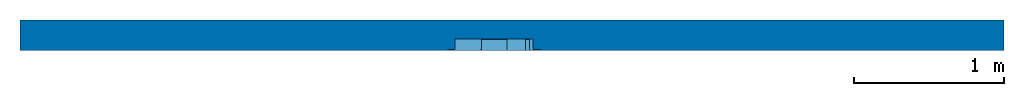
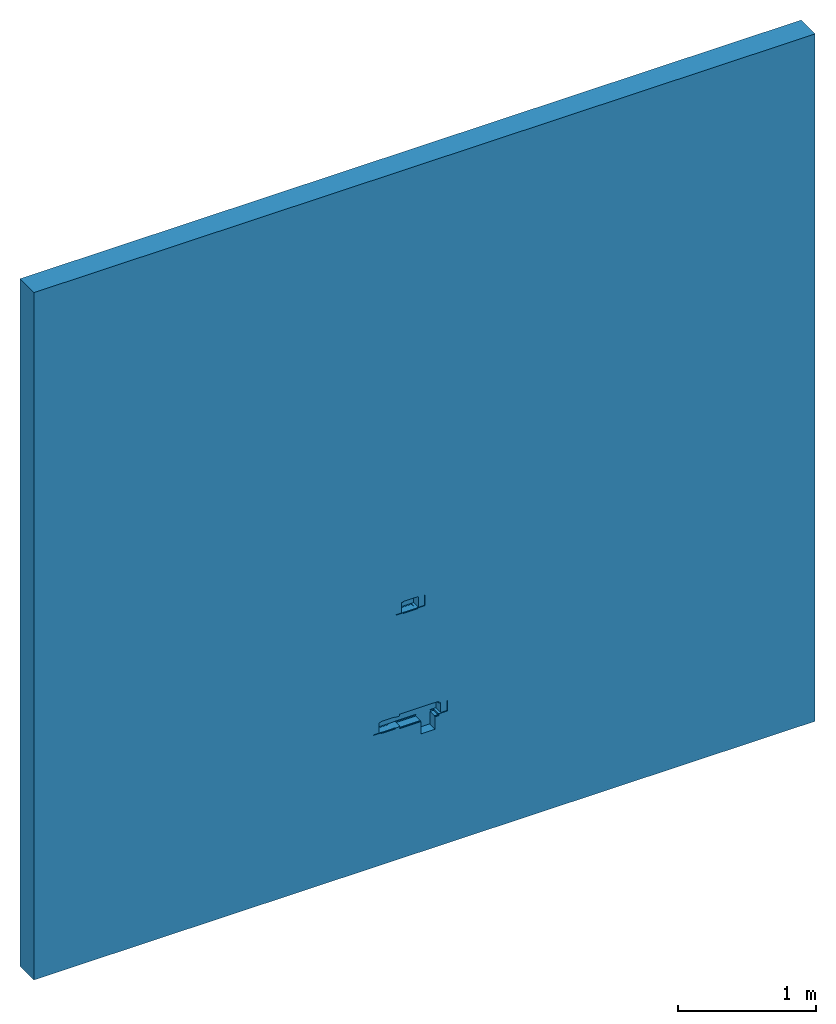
# One storey, part 1 of 2: 1 wall, 4 openings.
"""IFC2X3 building model written with IfcOpenShell, lengths in feet."""

from ifc_helpers import new_model, entity, si_unit, converted_unit, derived_unit, direction, frame, frame_2d, origin, place, context, subcontext, project, spatial, rectangle, extrude, faceted_brep, material, layer, layer_set, layer_usage, type_object, element, save


model = new_model("IFC2X3")

# Units and contexts
model_context = context("Model", 3, precision=0.0001, world=origin(), true_north=direction((6.12303176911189e-17, 1.0)))
body_context = subcontext(model_context, "Body", "Model", "MODEL_VIEW")
ifc_project = project(units=[converted_unit("LENGTHUNIT", "FOOT", entity("IfcRatioMeasure", 0.3048), si_unit("LENGTHUNIT", "METRE"), dimensions=[1, 0, 0, 0, 0, 0, 0]), converted_unit("AREAUNIT", "SQUARE FOOT", entity("IfcRatioMeasure", 0.09290304), si_unit("AREAUNIT", "SQUARE_METRE"), dimensions=[2, 0, 0, 0, 0, 0, 0]), converted_unit("VOLUMEUNIT", "CUBIC FOOT", entity("IfcRatioMeasure", 0.028316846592), si_unit("VOLUMEUNIT", "CUBIC_METRE"), dimensions=[3, 0, 0, 0, 0, 0, 0]), converted_unit("PLANEANGLEUNIT", "DEGREE", entity("IfcRatioMeasure", 0.0174532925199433), si_unit("PLANEANGLEUNIT", "RADIAN"), dimensions=[0, 0, 0, 0, 0, 0, 0]), si_unit("MASSUNIT", "GRAM", prefix="KILO"), derived_unit("MASSDENSITYUNIT", [(si_unit("MASSUNIT", "GRAM", prefix="KILO"), 1), (si_unit("LENGTHUNIT", "METRE"), -3)]), si_unit("TIMEUNIT", "SECOND"), si_unit("FREQUENCYUNIT", "HERTZ"), si_unit("THERMODYNAMICTEMPERATUREUNIT", "DEGREE_CELSIUS"), derived_unit("THERMALTRANSMITTANCEUNIT", [(si_unit("MASSUNIT", "GRAM", prefix="KILO"), 1), (si_unit("THERMODYNAMICTEMPERATUREUNIT", "KELVIN"), -1), (si_unit("TIMEUNIT", "SECOND"), -3)]), derived_unit("VOLUMETRICFLOWRATEUNIT", [(si_unit("LENGTHUNIT", "METRE"), 3), (si_unit("TIMEUNIT", "SECOND"), -1)]), si_unit("ELECTRICCURRENTUNIT", "AMPERE"), si_unit("ELECTRICVOLTAGEUNIT", "VOLT"), si_unit("POWERUNIT", "WATT"), si_unit("FORCEUNIT", "NEWTON"), si_unit("ILLUMINANCEUNIT", "LUX"), si_unit("LUMINOUSFLUXUNIT", "LUMEN"), si_unit("LUMINOUSINTENSITYUNIT", "CANDELA"), derived_unit("USERDEFINED", [(si_unit("MASSUNIT", "GRAM", prefix="KILO"), -1), (si_unit("LENGTHUNIT", "METRE"), -2), (si_unit("TIMEUNIT", "SECOND"), 3), (si_unit("LUMINOUSFLUXUNIT", "LUMEN"), 1)]), derived_unit("LINEARVELOCITYUNIT", [(si_unit("LENGTHUNIT", "METRE"), 1), (si_unit("TIMEUNIT", "SECOND"), -1)]), si_unit("PRESSUREUNIT", "PASCAL"), derived_unit("USERDEFINED", [(si_unit("LENGTHUNIT", "METRE"), -2), (si_unit("MASSUNIT", "GRAM", prefix="KILO"), 1), (si_unit("TIMEUNIT", "SECOND"), -2)])], contexts=[model_context])

# Site, building, storey
site_placement = place(None, origin())
site = spatial("IfcSite", under=ifc_project, at=site_placement, Name="Default", CompositionType="ELEMENT")
building_placement = place(site_placement, origin())
building = spatial("IfcBuilding", under=site, at=building_placement, CompositionType="ELEMENT")
storey_placement = place(building_placement, origin())
storey = spatial("IfcBuildingStorey", under=building, at=storey_placement, Name="Level 1", CompositionType="ELEMENT", Elevation=0.0)

# Wall, openings
ifc_material = material(Name="Default Wall")
ifc_layer = layer(ifc_material, 0.666666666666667)
ifc_layer_set = layer_set([ifc_layer], Name="Basic Wall:Generic - 8\"")
ifc_layer_usage = layer_usage(ifc_layer_set, "AXIS2", "NEGATIVE", 0.333333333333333)
wall_type = type_object("IfcWallType", Name="Basic Wall:Generic - 8\"", PredefinedType="STANDARD", material=ifc_layer_set)
wall_placement = place(storey_placement, frame((-16.0846740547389, 6.39140493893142, 0.0)))
wall = element("IfcWallStandardCase", 1, at=wall_placement, inside=storey, type_object=wall_type, material=ifc_layer_usage, Name="Basic Wall:Generic - 8\"", ObjectType="Basic Wall:Generic - 8\"", context=body_context, shape_type="SweptSolid", body=[
    extrude(rectangle(XDim=21.5, YDim=0.666666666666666, at=frame_2d((10.75, -2.77555756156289e-17), x_axis=(-1.0, 0.0))), origin(), (0.0, 0.0, 1.0), 20.0),
])
opening_1_placement = place(wall_placement, origin())
element("IfcOpeningElement", 2, at=opening_1_placement, cuts=wall, Name="Basic Wall:Generic - 8\"", ObjectType="Recess", context=body_context, shape_type="SweptSolid", body=[
    extrude(rectangle(XDim=0.311679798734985, YDim=0.0351008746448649, at=frame_2d((0.0, -1.11022302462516e-15), x_axis=(0.0, 1.0))), frame((9.98945824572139, -0.333333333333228, 4.00025909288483), z_axis=(0.0, 1.0, 0.0), x_axis=(1.0, 0.0, 0.0)), (0.0, 0.0, 1.0), 0.24606299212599),
])
opening_2_placement = place(wall_placement, frame((10.0070086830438, -0.495756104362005, 3.43248350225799)))
element("IfcOpeningElement", 3, at=opening_2_placement, cuts=wall, Name="Basic Wall:Generic - 8\"", ObjectType="Opening", context=body_context, shape_type="Brep", body=[
    faceted_brep([(1.37303149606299, 0.0, 0.723356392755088), (1.13927165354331, 0.0, 0.723356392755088), (1.13927165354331, 0.0, 0.777607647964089), (0.0578762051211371, 0.0, 0.777607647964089), (0.0578762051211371, 0.0, 0.723356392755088), (0.0, 0.0, 0.723356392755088), (0.0, 0.0, 0.411676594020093), (0.0578762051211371, 0.0, 0.411676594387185), (0.0578762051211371, 0.0, 0.357660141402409), (0.639082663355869, 0.0, 0.357660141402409), (0.639082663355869, 0.0, 0.0), (1.03278345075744, 0.0, 0.0), (1.03278345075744, 0.0, 0.357660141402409), (1.13927165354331, 0.0, 0.357660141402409), (1.13927165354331, 0.0, 0.411676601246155), (1.37303149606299, 0.0, 0.411676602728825), (0.0, 0.418307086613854, 0.411676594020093), (0.639082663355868, 0.418307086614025, 0.411676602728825), (0.639082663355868, 0.401902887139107, 0.411676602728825), (0.0721784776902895, 0.401902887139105, 0.411676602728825), (0.0721784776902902, 0.188648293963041, 0.411676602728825), (0.0578762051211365, 0.188648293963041, 0.411676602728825), (1.37303149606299, 0.188648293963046, 0.723356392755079), (1.2007874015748, 0.188648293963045, 0.72335639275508), (1.2007874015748, 0.418307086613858, 0.723356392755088), (0.0, 0.418307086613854, 0.723356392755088), (0.0578762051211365, 0.188648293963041, 0.723356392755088), (0.0721784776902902, 0.188648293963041, 0.723356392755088), (0.0721784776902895, 0.401902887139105, 0.723356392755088), (1.12860892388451, 0.401902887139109, 0.723356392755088), (1.12860892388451, 0.188648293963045, 0.723356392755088), (1.13927165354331, 0.188648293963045, 0.723356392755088), (1.37303149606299, 0.188648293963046, 0.411676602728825), (1.2007874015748, 0.188648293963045, 0.411676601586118), (1.2007874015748, 0.418307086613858, 0.411676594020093), (1.03278345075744, 0.418307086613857, 0.411676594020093), (1.03278345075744, 0.418307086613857, 0.0), (0.639082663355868, 0.418307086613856, 0.0), (0.639082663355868, 0.418307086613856, 0.411676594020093), (1.2007874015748, 0.188648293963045, 0.411676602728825), (1.12860892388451, 0.401902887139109, 0.760101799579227), (0.0721784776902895, 0.401902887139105, 0.760101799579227), (0.0721784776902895, 0.401902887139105, 0.374931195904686), (0.639082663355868, 0.401902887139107, 0.374931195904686), (0.639082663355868, 0.188648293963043, 0.374931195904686), (0.0721784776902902, 0.188648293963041, 0.374931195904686), (0.0721784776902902, 0.188648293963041, 0.760101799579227), (1.12860892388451, 0.188648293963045, 0.760101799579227), (1.13927165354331, 0.188648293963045, 0.777607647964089), (0.0578762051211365, 0.188648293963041, 0.777607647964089), (0.0578762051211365, 0.188648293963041, 0.357660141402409), (0.639082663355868, 0.188648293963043, 0.357660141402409), (1.13927165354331, 0.188648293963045, 0.357660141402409), (1.13927165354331, 0.188648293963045, 0.411676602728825), (1.03278345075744, 0.418307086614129, 0.411676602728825), (1.03278345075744, 0.401902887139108, 0.411676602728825), (1.03278345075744, 0.401902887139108, 0.374931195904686), (1.03278345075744, 0.188648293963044, 0.374931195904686), (1.03278345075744, 0.188648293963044, 0.357660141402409), (0.0578762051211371, 0.0, 0.411676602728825), (1.12860892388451, 0.188648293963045, 0.374931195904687), (1.12860892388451, 0.188648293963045, 0.411676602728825), (1.12860892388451, 0.401902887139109, 0.411676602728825), (1.12860892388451, 0.401902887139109, 0.374931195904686), (1.13927165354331, 0.0, 0.411676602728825), (1.2007874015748, 0.418307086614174, 0.411676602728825)], [[[0, 1, 2, 3, 4, 5, 6, 7, 8, 9, 10, 11, 12, 13, 14, 15]], [[16, 17, 18, 19, 20, 21, 7, 6]], [[22, 23, 24, 25, 5, 4, 26, 27, 28, 29, 30, 31, 1, 0]], [[15, 32, 22, 0]], [[32, 33, 23, 22]], [[25, 24, 34, 35, 36, 37, 38, 16]], [[16, 6, 5, 25]], [[24, 23, 39, 34]], [[40, 29, 28, 41]], [[42, 43, 44, 45]], [[42, 45, 20, 19]], [[41, 46, 47, 40]], [[40, 47, 30, 29]], [[48, 31, 30, 47, 46, 27, 26, 49]], [[50, 51, 9, 8]], [[49, 26, 4, 3]], [[49, 3, 2, 48]], [[52, 53, 14, 13]], [[36, 11, 10, 37]], [[10, 9, 51, 44, 43, 18, 38, 37]], [[36, 54, 55, 56, 57, 58, 12, 11]], [[2, 1, 31, 48]], [[8, 59, 21, 50]], [[13, 12, 58, 52]], [[52, 58, 57, 60, 61, 53]], [[21, 20, 45, 44, 51, 50]], [[62, 61, 60, 63]], [[28, 27, 46, 41]], [[60, 57, 56, 63]], [[63, 56, 55, 62]], [[19, 18, 43, 42]], [[15, 64, 53, 61, 62, 55, 35, 65, 33, 32]]]),
])
opening_3_placement = place(wall_placement, frame((9.33870570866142, -0.495756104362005, 3.82378459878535)))
element("IfcOpeningElement", 4, at=opening_3_placement, cuts=wall, Name="Basic Wall:Generic - 8\"", ObjectType="Opening", context=body_context, shape_type="Brep", body=[
    faceted_brep([(0.0, 0.0, 0.0206346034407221), (0.191929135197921, 0.0, 0.0206346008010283), (0.191929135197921, 0.0, 0.0), (0.61187664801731, 0.0, 0.0), (0.61187664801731, 0.0, 0.020634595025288), (0.633202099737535, 0.0, 0.0206345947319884), (0.633202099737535, 0.0, 0.332314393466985), (0.61187664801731, 0.0, 0.332314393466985), (0.61187664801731, 0.0, 0.354331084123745), (0.191929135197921, 0.0, 0.354331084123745), (0.191929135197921, 0.0, 0.332314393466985), (0.0, 0.0, 0.332314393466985), (0.0, 0.180446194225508, 0.0206345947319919), (0.170603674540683, 0.180446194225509, 0.0206345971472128), (0.170603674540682, 0.410104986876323, 0.0206345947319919), (0.403543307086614, 0.410104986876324, 0.0206345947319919), (0.633202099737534, 0.41010498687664, 0.0206346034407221), (0.61187664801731, 0.0, 0.0206346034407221), (0.61187664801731, 0.180457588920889, 0.0206346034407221), (0.561023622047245, 0.180457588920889, 0.0206346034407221), (0.561023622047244, 0.37729658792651, 0.0206346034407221), (0.242782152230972, 0.377296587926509, 0.0206346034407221), (0.242782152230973, 0.180457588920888, 0.0206346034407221), (0.191929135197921, 0.180457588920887, 0.0206346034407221), (0.0, 0.180446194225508, 0.332314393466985), (0.191929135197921, 0.180457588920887, 0.332314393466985), (0.242782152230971, 0.180457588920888, 0.332314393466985), (0.242782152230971, 0.377296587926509, 0.332314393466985), (0.561023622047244, 0.37729658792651, 0.332314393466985), (0.561023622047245, 0.180457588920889, 0.332314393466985), (0.61187664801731, 0.180457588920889, 0.332314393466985), (0.633202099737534, 0.410104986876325, 0.332314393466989), (0.403543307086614, 0.410104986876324, 0.332314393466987), (0.170603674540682, 0.410104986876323, 0.332314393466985), (0.170603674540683, 0.180446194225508, 0.332314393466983), (0.633202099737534, 0.410104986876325, 0.0206345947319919), (0.633202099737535, 0.0, 0.0206346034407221), (0.561023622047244, 0.37729658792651, 0.335595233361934), (0.242782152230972, 0.377296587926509, 0.335595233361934), (0.561023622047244, 0.377296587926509, 0.0174479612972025), (0.561023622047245, 0.180457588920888, 0.0174479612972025), (0.242782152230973, 0.180457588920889, 0.0174479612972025), (0.242782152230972, 0.377296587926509, 0.0174479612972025), (0.242782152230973, 0.180457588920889, 0.335595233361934), (0.561023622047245, 0.180457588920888, 0.335595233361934), (0.61187664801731, 0.180457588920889, 0.354331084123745), (0.191929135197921, 0.180457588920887, 0.354331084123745), (0.61187664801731, 0.180457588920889, 0.0), (0.191929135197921, 0.180457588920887, 0.0), (0.191929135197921, 0.0, 0.0206346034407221)], [[[0, 1, 2, 3, 4, 5, 6, 7, 8, 9, 10, 11]], [[12, 13, 14, 15, 16, 5, 17, 18, 19, 20, 21, 22, 23, 1, 0]], [[11, 24, 12, 0]], [[11, 10, 25, 26, 27, 28, 29, 30, 7, 6, 31, 32, 33, 34, 24]], [[24, 34, 13, 12]], [[33, 32, 31, 35, 15, 14]], [[14, 13, 34, 33]], [[31, 6, 36, 35]], [[37, 28, 27, 38]], [[39, 40, 41, 42]], [[42, 41, 22, 21]], [[38, 43, 44, 37]], [[37, 44, 29, 28]], [[45, 30, 29, 44, 43, 26, 25, 46]], [[47, 3, 2, 48]], [[46, 25, 10, 9]], [[46, 9, 8, 45]], [[47, 18, 4, 3]], [[8, 7, 30, 45]], [[2, 49, 23, 48]], [[48, 23, 22, 41, 40, 19, 18, 47]], [[20, 19, 40, 39]], [[27, 26, 43, 38]], [[42, 21, 20, 39]]]),
])
opening_4_placement = place(wall_placement, frame((9.95709947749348, -0.495756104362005, 7.10436539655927)))
element("IfcOpeningElement", 5, at=opening_4_placement, cuts=wall, Name="Basic Wall:Generic - 8\"", ObjectType="Opening", context=body_context, shape_type="Brep", body=[
    faceted_brep([(0.0, 0.0, 0.0206346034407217), (0.191929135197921, 0.0, 0.0206346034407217), (0.191929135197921, 0.0, 0.0), (0.61187664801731, 0.0, 0.0), (0.61187664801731, 0.0, 0.0206346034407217), (0.807086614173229, 0.0, 0.0206346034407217), (0.807086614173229, 0.0, 0.332314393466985), (0.61187664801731, 0.0, 0.332314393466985), (0.61187664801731, 0.0, 0.354331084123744), (0.191929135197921, 0.0, 0.354331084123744), (0.191929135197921, 0.0, 0.332314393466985), (0.0, 0.0, 0.332314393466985), (0.0, 0.180446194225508, 0.0206345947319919), (0.170603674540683, 0.180446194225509, 0.0206345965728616), (0.170603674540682, 0.410104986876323, 0.0206345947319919), (0.403543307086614, 0.410104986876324, 0.0206345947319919), (0.633202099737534, 0.410104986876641, 0.0206346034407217), (0.633202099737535, 0.18044619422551, 0.020634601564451), (0.80708661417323, 0.180446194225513, 0.0206346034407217), (0.61187664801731, 0.180457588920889, 0.0206346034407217), (0.561023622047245, 0.180457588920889, 0.0206346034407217), (0.561023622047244, 0.37729658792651, 0.0206346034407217), (0.242782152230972, 0.37729658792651, 0.0206346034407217), (0.242782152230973, 0.180457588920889, 0.0206346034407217), (0.191929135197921, 0.180457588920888, 0.0206346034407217), (0.0, 0.180446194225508, 0.332314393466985), (0.191929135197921, 0.180457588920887, 0.332314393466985), (0.242782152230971, 0.180457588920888, 0.332314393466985), (0.242782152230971, 0.377296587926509, 0.332314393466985), (0.561023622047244, 0.37729658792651, 0.332314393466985), (0.561023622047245, 0.180457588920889, 0.332314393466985), (0.61187664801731, 0.180457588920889, 0.332314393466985), (0.807086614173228, 0.180446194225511, 0.332314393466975), (0.633202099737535, 0.180446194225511, 0.332314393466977), (0.633202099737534, 0.410104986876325, 0.332314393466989), (0.403543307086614, 0.410104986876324, 0.332314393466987), (0.170603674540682, 0.410104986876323, 0.332314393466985), (0.170603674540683, 0.180446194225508, 0.332314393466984), (0.633202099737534, 0.410104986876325, 0.0206345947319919), (0.633202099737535, 0.180446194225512, 0.0206346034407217), (0.561023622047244, 0.37729658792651, 0.335595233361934), (0.242782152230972, 0.377296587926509, 0.335595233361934), (0.561023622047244, 0.377296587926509, 0.0174479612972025), (0.561023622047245, 0.180457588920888, 0.0174479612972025), (0.242782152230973, 0.180457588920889, 0.0174479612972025), (0.242782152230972, 0.377296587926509, 0.0174479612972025), (0.242782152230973, 0.180457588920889, 0.335595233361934), (0.561023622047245, 0.180457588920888, 0.335595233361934), (0.61187664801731, 0.180457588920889, 0.354331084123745), (0.191929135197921, 0.180457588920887, 0.354331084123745), (0.61187664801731, 0.180457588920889, 0.0), (0.191929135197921, 0.180457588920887, 0.0)], [[[0, 1, 2, 3, 4, 5, 6, 7, 8, 9, 10, 11]], [[12, 13, 14, 15, 16, 17, 18, 5, 4, 19, 20, 21, 22, 23, 24, 1, 0]], [[11, 25, 12, 0]], [[11, 10, 26, 27, 28, 29, 30, 31, 7, 6, 32, 33, 34, 35, 36, 37, 25]], [[5, 18, 32, 6]], [[18, 17, 33, 32]], [[36, 35, 34, 38, 15, 14]], [[14, 13, 37, 36]], [[34, 33, 39, 38]], [[40, 29, 28, 41]], [[42, 43, 44, 45]], [[45, 44, 23, 22]], [[41, 46, 47, 40]], [[40, 47, 30, 29]], [[48, 31, 30, 47, 46, 27, 26, 49]], [[50, 3, 2, 51]], [[49, 26, 10, 9]], [[49, 9, 8, 48]], [[50, 19, 4, 3]], [[8, 7, 31, 48]], [[2, 1, 24, 51]], [[51, 24, 23, 44, 43, 20, 19, 50]], [[21, 20, 43, 42]], [[28, 27, 46, 41]], [[45, 22, 21, 42]], [[25, 37, 13, 12]]]),
])

save(model, "model.ifc")
